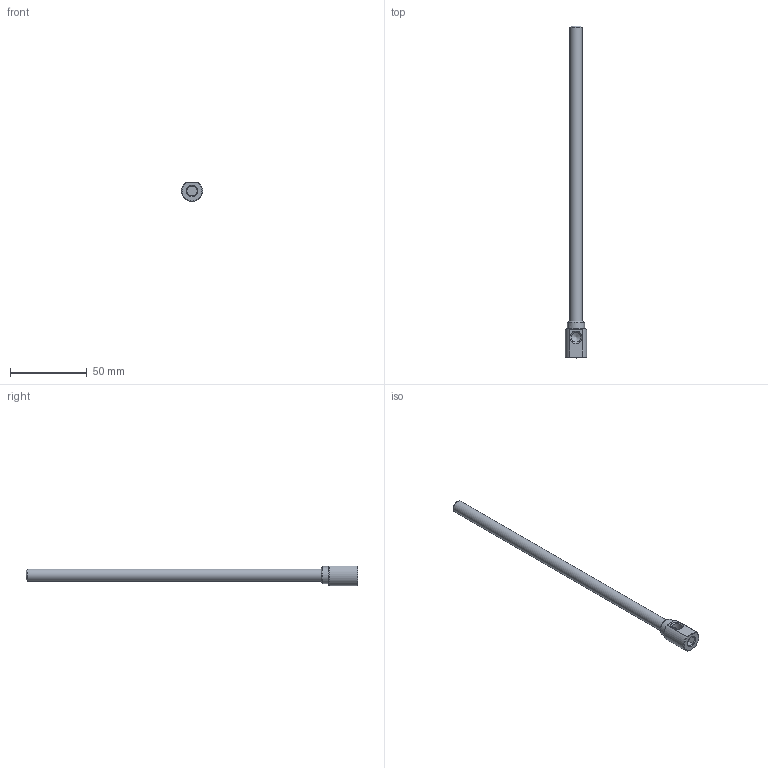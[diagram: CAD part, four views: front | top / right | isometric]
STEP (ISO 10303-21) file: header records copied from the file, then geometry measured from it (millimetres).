
FILE_DESCRIPTION(/* description */ (''),/* implementation_level */ '2;1');
FILE_NAME(/* name */ 'C:/Users/drich/Desktop/EKL16 X 8.5 v2.step',/* time_stamp */ '2019-11-18T14:36:50-06:00',/* author */ (''),/* organization */ (''),/* preprocessor_version */ 'ST-DEVELOPER v18',/* originating_system */ 'Autodesk Translation Framework v8.12.0.6',/* authorisation */ '');
FILE_SCHEMA (('AUTOMOTIVE_DESIGN { 1 0 10303 214 3 1 1 }'));
Length unit declared in the file: inch
Products named in the file (2): EKL16 X 8.5; EKL16 X 8-1/2
Assembly tree (1 placements, depth 2):
  EKL16 X 8.5
    EKL16 X 8-1/2
Bounding box: 13.97 x 215.9 x 12.7 mm (x, y, z)
Volume: 8298.2 mm3; surface area: 9302 mm2
Topology: 1 solids, 1 shells, 29 faces, 80 edges, 56 vertices
Faces by surface type: plane 15, cone 8, cylinder 6
Full cylindrical faces by diameter (mm): 4.75 x1, 6.566 x1, 7.62 x1, 7.828 x1, 11.1 x1
Entity records: 1016 total; most frequent: CARTESIAN_POINT 241, ORIENTED_EDGE 158, DIRECTION 148, EDGE_CURVE 79, AXIS2_PLACEMENT_3D 59, VERTEX_POINT 56, EDGE_LOOP 35, LINE 30
